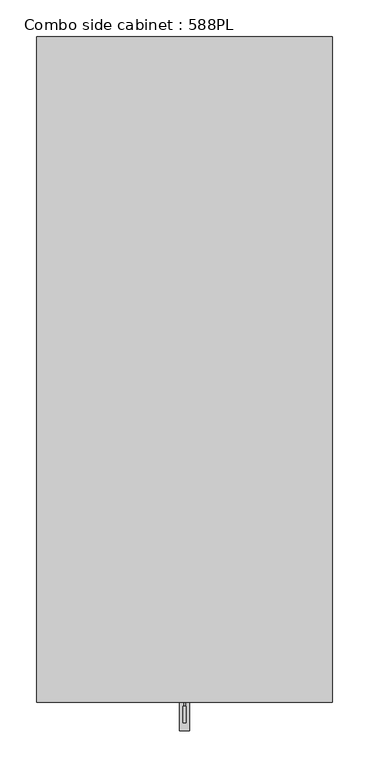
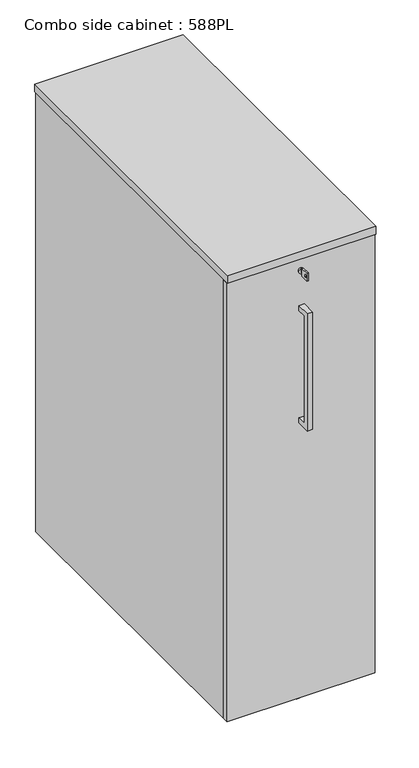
"""IFC4 building model written with IfcOpenShell, lengths in millimetres: furniture geometry, Combo side cabinet : 588PL."""

import ifcopenshell
import ifcopenshell.guid

model = None  # the IFC model being written
_history = None  # IfcOwnerHistory: only IFC2X3 demands one
_inside = {}  # id of a spatial element -> (the spatial element, [elements in it])
_under = {}  # id of a project, library or spatial element -> (it, [spatial elements below it])
_declared = {}  # id of a project -> (the project, [libraries it declares])
_typed = {}  # id of a type object -> (the type object, [elements of that type])
_made_of = {}  # id of a material, layer set ... -> (it, [elements and type objects made of it])


def new_model(schema):
    """Start an empty IFC model of exactly this schema.

    Asked for "IFC4X3", IfcOpenShell would pick the latest addendum, in which some entities
    have other attributes; the version numbers below select the first issue.
    IFC2X3 requires an IfcOwnerHistory on every rooted entity: one is made here for all.
    """
    global model, _history
    if schema == "IFC4X3":
        model = ifcopenshell.file(schema_version=(4, 3, 0, 0))
    else:
        model = ifcopenshell.file(schema=schema)
    _inside.clear()
    _under.clear()
    _declared.clear()
    _typed.clear()
    _made_of.clear()
    _history = None
    if model.schema == "IFC2X3":
        org = make("IfcOrganization", Name="unknown")
        user = make(
            "IfcPersonAndOrganization",
            ThePerson=make("IfcPerson", FamilyName="unknown"),
            TheOrganization=org,
        )
        app = make(
            "IfcApplication",
            ApplicationDeveloper=org,
            Version="unknown",
            ApplicationFullName="unknown",
            ApplicationIdentifier="unknown",
        )
        _history = make(
            "IfcOwnerHistory",
            OwningUser=user,
            OwningApplication=app,
            ChangeAction="ADDED",
            CreationDate=0,
        )
    return model


def make(cls, **values):
    """One entity of the class cls with the attributes given. An attribute that is None is left unset."""
    return model.create_entity(
        cls, **{name: value for name, value in values.items() if value is not None}
    )


def rooted(cls, **values):
    """An entity with a GlobalId (a new one), such as an element, a storey or a relation."""
    return make(cls, GlobalId=ifcopenshell.guid.new(), OwnerHistory=_history, **values)


def si_unit(unit_type, name, prefix=None):
    """IfcSIUnit, for example si_unit("LENGTHUNIT", "METRE", prefix="MILLI")."""
    return make("IfcSIUnit", UnitType=unit_type, Prefix=prefix, Name=name)


def assignment(units):
    """IfcUnitAssignment: the units of a project."""
    return None if units is None else make("IfcUnitAssignment", Units=units)


def point(xyz):
    """IfcCartesianPoint."""
    return None if xyz is None else make("IfcCartesianPoint", Coordinates=xyz)


def direction(xyz):
    """IfcDirection."""
    return None if xyz is None else make("IfcDirection", DirectionRatios=xyz)


def frame(location, z_axis=None, x_axis=None):
    """IfcAxis2Placement3D, a coordinate frame: its origin and axes. An axis left out is left unset."""
    return make(
        "IfcAxis2Placement3D",
        Location=point(location),
        Axis=direction(z_axis),
        RefDirection=direction(x_axis),
    )


def frame_2d(location, x_axis=None):
    """IfcAxis2Placement2D, a coordinate frame in the plane: its origin and x axis."""
    return make(
        "IfcAxis2Placement2D", Location=point(location), RefDirection=direction(x_axis)
    )


def origin():
    """The frame at (0, 0, 0) with its axes left unset."""
    return frame((0.0, 0.0, 0.0))


def origin_with_axes():
    """The frame at (0, 0, 0) with the z axis (0, 0, 1) and the x axis (1, 0, 0) written out."""
    return frame((0.0, 0.0, 0.0), z_axis=(0.0, 0.0, 1.0), x_axis=(1.0, 0.0, 0.0))


def place(relative_to, where):
    """IfcLocalPlacement: puts the frame where relative to a parent placement (None: the world)."""
    return make(
        "IfcLocalPlacement", PlacementRelTo=relative_to, RelativePlacement=where
    )


def context(
    kind, dimensions, precision=None, world=None, true_north=None, identifier=None
):
    """IfcGeometricRepresentationContext, for example the 3D "Model" context."""
    return make(
        "IfcGeometricRepresentationContext",
        ContextIdentifier=identifier,
        ContextType=kind,
        CoordinateSpaceDimension=dimensions,
        Precision=precision,
        WorldCoordinateSystem=world,
        TrueNorth=true_north,
    )


def project(units=None, contexts=None):
    """IfcProject with its units and contexts."""
    return rooted(
        "IfcProject",
        Name="project",
        RepresentationContexts=contexts,
        UnitsInContext=assignment(units),
    )


def spatial(cls, under=None, at=None, **own):
    """A site, building, storey or space (cls), placed at a placement, below another one or the project."""
    s = rooted(cls, ObjectPlacement=at, **own)
    if under is not None:
        _under.setdefault(under.id(), (under, []))[1].append(s)
    return s


def polyline(points):
    """IfcPolyline through the points."""
    return make("IfcPolyline", Points=[point(p) for p in points])


def circle_curve(where, radius):
    """IfcCircle in the frame where."""
    return make("IfcCircle", Position=where, Radius=radius)


def trimmed(basis, trim1, trim2, sense, master):
    """IfcTrimmedCurve: the piece of a basis curve between two trims."""
    return make(
        "IfcTrimmedCurve",
        BasisCurve=basis,
        Trim1=trim1,
        Trim2=trim2,
        SenseAgreement=sense,
        MasterRepresentation=master,
    )


def segment(curve, same_sense, transition):
    """IfcCompositeCurveSegment."""
    return make(
        "IfcCompositeCurveSegment",
        Transition=transition,
        SameSense=same_sense,
        ParentCurve=curve,
    )


def composite_curve(segments, self_intersect=None):
    """IfcCompositeCurve: segments joined end to end."""
    return make("IfcCompositeCurve", Segments=segments, SelfIntersect=self_intersect)


def outline(outer, holes=None, kind="AREA"):
    """IfcArbitraryClosedProfileDef: a profile drawn as a closed curve; with holes, ...WithVoids."""
    if holes is None:
        return make("IfcArbitraryClosedProfileDef", ProfileType=kind, OuterCurve=outer)
    return make(
        "IfcArbitraryProfileDefWithVoids",
        ProfileType=kind,
        OuterCurve=outer,
        InnerCurves=holes,
    )


def extrude(swept, where, along, depth):
    """IfcExtrudedAreaSolid: the profile swept, set in the frame where, extruded along a direction by depth."""
    return make(
        "IfcExtrudedAreaSolid",
        SweptArea=swept,
        Position=where,
        ExtrudedDirection=direction(along),
        Depth=depth,
    )


def shape(context_of_items, identifier, shape_type, items):
    """IfcShapeRepresentation: the items that make up one representation, for example the "Body"."""
    return make(
        "IfcShapeRepresentation",
        ContextOfItems=context_of_items,
        RepresentationIdentifier=identifier,
        RepresentationType=shape_type,
        Items=items,
    )


def source(mapping_origin, context_of_items, identifier, shape_type, items):
    """IfcRepresentationMap: a shape defined once, which mapped items show again and again."""
    return make(
        "IfcRepresentationMap",
        MappingOrigin=mapping_origin,
        MappedRepresentation=shape(context_of_items, identifier, shape_type, items),
    )


def transform(
    local_origin,
    x_axis=None,
    y_axis=None,
    z_axis=None,
    scale=None,
    scale2=None,
    scale3=None,
    uniform=True,
):
    """IfcCartesianTransformationOperator3D, or its non-uniform kind. x_axis, y_axis, z_axis: its Axis1, 2, 3."""
    if uniform:
        return make(
            "IfcCartesianTransformationOperator3D",
            Axis1=direction(x_axis),
            Axis2=direction(y_axis),
            LocalOrigin=point(local_origin),
            Scale=scale,
            Axis3=direction(z_axis),
        )
    return make(
        "IfcCartesianTransformationOperator3DnonUniform",
        Axis1=direction(x_axis),
        Axis2=direction(y_axis),
        LocalOrigin=point(local_origin),
        Scale=scale,
        Axis3=direction(z_axis),
        Scale2=scale2,
        Scale3=scale3,
    )


def mapped(mapping_source, mapping_target):
    """IfcMappedItem: shows the shape of a source again, moved by a transform."""
    return make(
        "IfcMappedItem", MappingSource=mapping_source, MappingTarget=mapping_target
    )


def made_of(thing, what):
    """Note that an element or type object is made of a material, layer set ...; save() writes the relation."""
    if what is not None:
        _made_of.setdefault(what.id(), (what, []))[1].append(thing)
    return thing


def element(
    cls,
    number,
    at=None,
    inside=None,
    cuts=None,
    type_object=None,
    material=None,
    context=None,
    identifier="Body",
    shape_type=None,
    held_by="IfcProductDefinitionShape",
    body=None,
    shapes=None,
    **own,
):
    """One element of the class cls, such as IfcWall. Its Tag is "e" and its number.

    at: its placement. inside: the storey or other place that contains it. cuts: it is an
    opening in that element (IfcRelVoidsElement). A single representation is given by context,
    identifier, shape_type and body (its items); several are given by shapes. held_by: the class
    of the entity that holds the representations. save() writes the other relations.
    """
    e = rooted(cls, Tag="e%d" % number, ObjectPlacement=at, **own)
    if body is not None:
        shapes = [shape(context, identifier, shape_type, body)]
    if shapes is not None:
        e.Representation = make(held_by, Representations=shapes)
    if inside is not None:
        _inside.setdefault(inside.id(), (inside, []))[1].append(e)
    if cuts is not None:
        rooted(
            "IfcRelVoidsElement", RelatingBuildingElement=cuts, RelatedOpeningElement=e
        )
    if type_object is not None:
        _typed.setdefault(type_object.id(), (type_object, []))[1].append(e)
    return made_of(e, material)


def aggregate(whole, parts):
    """IfcRelAggregates: a whole, such as a stair, and the parts it consists of."""
    return rooted("IfcRelAggregates", RelatingObject=whole, RelatedObjects=parts)


def save(model, path):
    """Write the relations noted so far, then the file.

    IfcRelAggregates (storeys below a building ...), IfcRelContainedInSpatialStructure (elements
    in a storey), IfcRelDefinesByType, IfcRelAssociatesMaterial and IfcRelDeclares: one each for
    every whole, place, type object, material and project.
    """
    for whole, parts in _under.values():
        aggregate(whole, parts)
    for where, things in _inside.values():
        rooted(
            "IfcRelContainedInSpatialStructure",
            RelatedElements=things,
            RelatingStructure=where,
        )
    for kind, things in _typed.values():
        rooted("IfcRelDefinesByType", RelatedObjects=things, RelatingType=kind)
    for what, things in _made_of.values():
        rooted("IfcRelAssociatesMaterial", RelatedObjects=things, RelatingMaterial=what)
    for by, libraries in _declared.values():
        rooted("IfcRelDeclares", RelatingContext=by, RelatedDefinitions=libraries)
    model.write(path)


def combo_side_cabinet_588pl_d26bd0a2(model_context):
    return source(origin(), model_context, "Body", "SweptSolid", [
        extrude(outline(polyline([(1.5783188, 20.1617145), (1.5783188, 10.1617145), (-8.4216812, 10.1617145), (-8.4216812, 20.1617145), (1.5783188, 20.1617145)])), origin_with_axes(), (0.0, 0.0, 1.0), 10.0),
        extrude(outline(polyline([(180.5000002, 898.0), (198.5, 898.0), (198.5, 22.9999769), (180.5000002, 22.9999769), (180.5000002, 898.0)])), frame((0.0, 0.0, 5.0), z_axis=(0.0, 0.0, 1.0), x_axis=(1.0, 0.0, 0.0)), (0.0, 0.0, 1.0), 1253.0),
        extrude(outline(polyline([(-180.5000002, 878.4999997), (-180.5000002, 890.9999997), (180.5000002, 890.9999997), (180.5000002, 878.4999997), (-180.5000002, 878.4999997)])), frame((0.0, 0.0, 5.0), z_axis=(0.0, 0.0, 1.0), x_axis=(1.0, 0.0, 0.0)), (0.0, 0.0, 1.0), 1253.0),
        extrude(outline(polyline([(-180.5000002, 898.0), (-180.5000002, 22.9999769), (-198.5, 22.9999769), (-198.5, 898.0), (-180.5000002, 898.0)])), frame((0.0, 0.0, 5.0), z_axis=(0.0, 0.0, 1.0), x_axis=(1.0, 0.0, 0.0)), (0.0, 0.0, 1.0), 1253.0),
        extrude(outline(polyline([(200.0, 0.0), (-200.0, 0.0), (-200.0, 900.0), (200.0, 900.0), (200.0, 0.0)])), frame((0.0, 0.0, 1258.0), z_axis=(0.0, 0.0, 1.0), x_axis=(1.0, 0.0, 0.0)), (0.0, 0.0, 1.0), 22.0),
        extrude(outline(polyline([(180.5000002, 70.0000151), (-180.5000002, 70.0000151), (-180.5000002, 838.5000021), (180.5000002, 838.5000021), (180.5000002, 70.0000151)])), frame((0.0, 0.0, 20.0583505), z_axis=(0.0, 0.0, 1.0), x_axis=(1.0, 0.0, 0.0)), (0.0, 0.0, 1.0), 17.9999982),
        extrude(outline(composite_curve([segment(trimmed(circle_curve(frame_2d((-160.5000002, 806.0000021)), 20.0), [point((-180.5000002, 806.0000021))], [point((-140.5000002, 806.0000021))], False, "CARTESIAN"), True, "CONTINUOUS"), segment(trimmed(circle_curve(frame_2d((-160.5000002, 806.0000021)), 20.0), [point((-140.5000002, 806.0000021))], [point((-180.5000002, 806.0000021))], False, "CARTESIAN"), True, "CONTINUOUS")], self_intersect=False)), origin_with_axes(), (0.0, 0.0, 1.0), 19.0539492),
        extrude(outline(composite_curve([segment(trimmed(circle_curve(frame_2d((-160.5000002, 98.9999918)), 20.0), [point((-180.5000002, 98.9999918))], [point((-140.5000002, 98.9999918))], False, "CARTESIAN"), True, "CONTINUOUS"), segment(trimmed(circle_curve(frame_2d((-160.5000002, 98.9999918)), 20.0), [point((-140.5000002, 98.9999918))], [point((-180.5000002, 98.9999918))], False, "CARTESIAN"), True, "CONTINUOUS")], self_intersect=False)), origin_with_axes(), (0.0, 0.0, 1.0), 19.0539492),
        extrude(outline(composite_curve([segment(trimmed(circle_curve(frame_2d((160.5000002, 806.0000021)), 20.0), [point((140.5000002, 806.0000021))], [point((180.5000002, 806.0000021))], False, "CARTESIAN"), True, "CONTINUOUS"), segment(trimmed(circle_curve(frame_2d((160.5000002, 806.0000021)), 20.0), [point((180.5000002, 806.0000021))], [point((140.5000002, 806.0000021))], False, "CARTESIAN"), True, "CONTINUOUS")], self_intersect=False)), origin_with_axes(), (0.0, 0.0, 1.0), 19.0539492),
        extrude(outline(composite_curve([segment(trimmed(circle_curve(frame_2d((160.5000002, 98.9999918)), 20.0), [point((140.5000002, 98.9999918))], [point((180.5000002, 98.9999918))], False, "CARTESIAN"), True, "CONTINUOUS"), segment(trimmed(circle_curve(frame_2d((160.5000002, 98.9999918)), 20.0), [point((180.5000002, 98.9999918))], [point((140.5000002, 98.9999918))], False, "CARTESIAN"), True, "CONTINUOUS")], self_intersect=False)), origin_with_axes(), (0.0, 0.0, 1.0), 19.0539492),
        extrude(outline(polyline([(-27.7941339, 1212.014113), (-27.7941339, 1234.0), (-5.7941339, 1234.0), (-5.7941339, 1212.014113), (-27.7941339, 1212.014113)]), holes=[composite_curve([segment(trimmed(circle_curve(frame_2d((-21.5441339, 1223.0070565)), 3.2230706), [point((-21.5441339, 1226.2301271))], [point((-21.5441339, 1219.7839859))], True, "CARTESIAN"), True, "CONTINUOUS"), segment(trimmed(circle_curve(frame_2d((-21.5441339, 1223.0070565)), 3.2230706), [point((-21.5441339, 1219.7839859))], [point((-21.5441339, 1226.2301271))], True, "CARTESIAN"), True, "CONTINUOUS")], self_intersect=False)]), frame((-2.0, 0.0, 0.0), z_axis=(1.0, 0.0, 0.0), x_axis=(0.0, 1.0, 0.0)), (0.0, 0.0, 1.0), 4.0416064),
        extrude(outline(polyline([(1.0416064, -5.7941339), (-1.0, -5.7941339), (-1.0, 0.2058661), (1.0416064, 0.2058661), (1.0416064, -5.7941339)])), frame((0.0, 0.0, 1219.014113), z_axis=(0.0, 0.0, 1.0), x_axis=(1.0, 0.0, 0.0)), (0.0, 0.0, 1.0), 7.985887),
        extrude(outline(composite_curve([segment(trimmed(circle_curve(frame_2d((1223.0, 0.0)), 7.0), [point((1223.0, -7.0))], [point((1223.0, 7.0))], False, "CARTESIAN"), True, "CONTINUOUS"), segment(trimmed(circle_curve(frame_2d((1223.0, 0.0)), 7.0), [point((1223.0, 7.0))], [point((1223.0, -7.0))], False, "CARTESIAN"), True, "CONTINUOUS")], self_intersect=False)), frame((0.0, 0.2058661, 0.0), z_axis=(0.0, 1.0, 0.0), x_axis=(0.0, 0.0, 1.0)), (0.0, 0.0, 1.0), 4.0),
        extrude(outline(polyline([(200.0000015, 26.2058314), (200.0000015, 4.2058661), (-198.5000015, 4.2058661), (-198.5000015, 26.2058314), (200.0000015, 26.2058314)])), frame((0.0, 0.0, 5.0), z_axis=(0.0, 0.0, 1.0), x_axis=(1.0, 0.0, 0.0)), (0.0, 0.0, 1.0), 1250.0),
        extrude(outline(polyline([(-39.0505975, 1127.0077227), (-0.0348312, 1127.020752), (-0.0348312, 1112.9468994), (-25.0348312, 1112.9470266), (-25.0348312, 807.0380249), (-0.0348312, 807.0380249), (-0.0348312, 793.0357666), (-39.0237952, 793.0335115), (-39.0505975, 1127.0077227)])), frame((-7.0, 0.0, 0.0), z_axis=(1.0, 0.0, 0.0), x_axis=(0.0, 1.0, 0.0)), (0.0, 0.0, 1.0), 14.0),
    ])


if __name__ == "__main__":
    model = new_model("IFC4")
    model_context = context("Model", 3, world=origin())
    ifc_project = project(units=[si_unit("LENGTHUNIT", "METRE", prefix="MILLI")], contexts=[model_context])
    site = spatial("IfcSite", under=ifc_project)
    building = spatial("IfcBuilding", under=site)
    placement = place(None, origin())
    combo_side_cabinet_588pl_shape = combo_side_cabinet_588pl_d26bd0a2(model_context)
    element("IfcFurniture", 1, ObjectType="Combo side cabinet : 588PL", at=placement, inside=building, context=model_context, shape_type="MappedRepresentation", body=[
        mapped(combo_side_cabinet_588pl_shape, transform((0.0, 0.0, 0.0), x_axis=(1.0, 0.0, 0.0), y_axis=(0.0, 1.0, 0.0), z_axis=(0.0, 0.0, 1.0))),
    ])
    save(model, "model.ifc")
